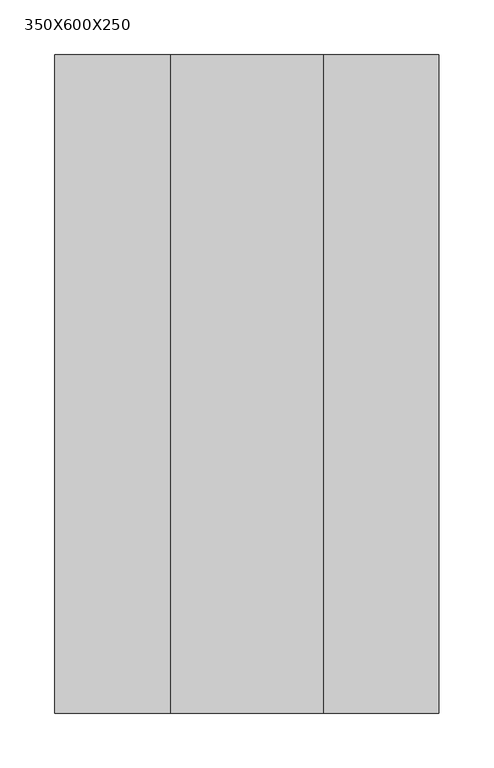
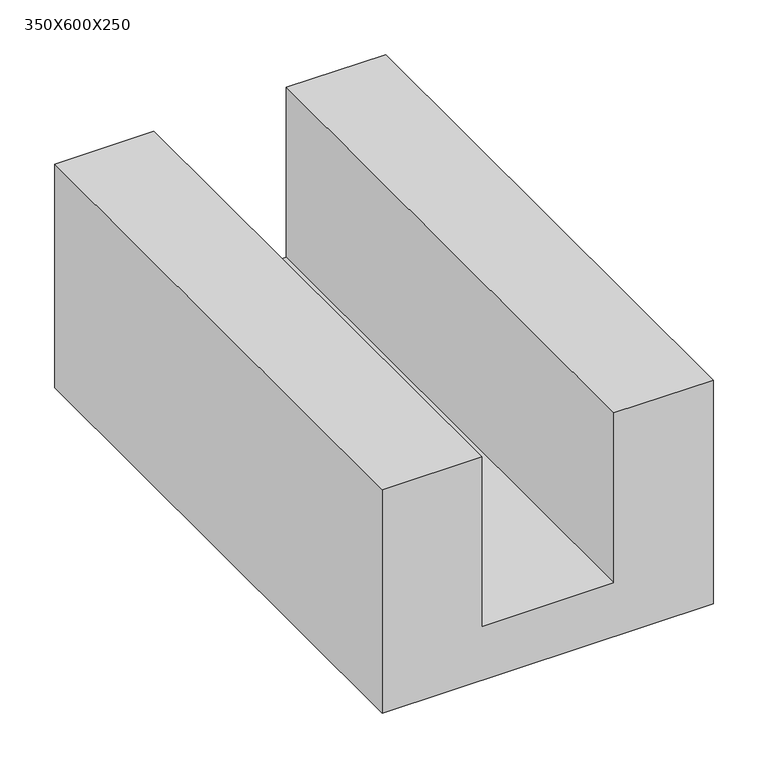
"""IFC4 building model written with IfcOpenShell, lengths in millimetres: plate geometry, GASBETON Evolution Canalette : 350X600X250."""

import ifcopenshell
import ifcopenshell.guid

model = None  # the IFC model being written
_history = None  # IfcOwnerHistory: only IFC2X3 demands one
_inside = {}  # id of a spatial element -> (the spatial element, [elements in it])
_under = {}  # id of a project, library or spatial element -> (it, [spatial elements below it])
_declared = {}  # id of a project -> (the project, [libraries it declares])
_typed = {}  # id of a type object -> (the type object, [elements of that type])
_made_of = {}  # id of a material, layer set ... -> (it, [elements and type objects made of it])


def new_model(schema):
    """Start an empty IFC model of exactly this schema.

    Asked for "IFC4X3", IfcOpenShell would pick the latest addendum, in which some entities
    have other attributes; the version numbers below select the first issue.
    IFC2X3 requires an IfcOwnerHistory on every rooted entity: one is made here for all.
    """
    global model, _history
    if schema == "IFC4X3":
        model = ifcopenshell.file(schema_version=(4, 3, 0, 0))
    else:
        model = ifcopenshell.file(schema=schema)
    _inside.clear()
    _under.clear()
    _declared.clear()
    _typed.clear()
    _made_of.clear()
    _history = None
    if model.schema == "IFC2X3":
        org = make("IfcOrganization", Name="unknown")
        user = make(
            "IfcPersonAndOrganization",
            ThePerson=make("IfcPerson", FamilyName="unknown"),
            TheOrganization=org,
        )
        app = make(
            "IfcApplication",
            ApplicationDeveloper=org,
            Version="unknown",
            ApplicationFullName="unknown",
            ApplicationIdentifier="unknown",
        )
        _history = make(
            "IfcOwnerHistory",
            OwningUser=user,
            OwningApplication=app,
            ChangeAction="ADDED",
            CreationDate=0,
        )
    return model


def make(cls, **values):
    """One entity of the class cls with the attributes given. An attribute that is None is left unset."""
    return model.create_entity(
        cls, **{name: value for name, value in values.items() if value is not None}
    )


def rooted(cls, **values):
    """An entity with a GlobalId (a new one), such as an element, a storey or a relation."""
    return make(cls, GlobalId=ifcopenshell.guid.new(), OwnerHistory=_history, **values)


def si_unit(unit_type, name, prefix=None):
    """IfcSIUnit, for example si_unit("LENGTHUNIT", "METRE", prefix="MILLI")."""
    return make("IfcSIUnit", UnitType=unit_type, Prefix=prefix, Name=name)


def assignment(units):
    """IfcUnitAssignment: the units of a project."""
    return None if units is None else make("IfcUnitAssignment", Units=units)


def point(xyz):
    """IfcCartesianPoint."""
    return None if xyz is None else make("IfcCartesianPoint", Coordinates=xyz)


def direction(xyz):
    """IfcDirection."""
    return None if xyz is None else make("IfcDirection", DirectionRatios=xyz)


def frame(location, z_axis=None, x_axis=None):
    """IfcAxis2Placement3D, a coordinate frame: its origin and axes. An axis left out is left unset."""
    return make(
        "IfcAxis2Placement3D",
        Location=point(location),
        Axis=direction(z_axis),
        RefDirection=direction(x_axis),
    )


def origin():
    """The frame at (0, 0, 0) with its axes left unset."""
    return frame((0.0, 0.0, 0.0))


def place(relative_to, where):
    """IfcLocalPlacement: puts the frame where relative to a parent placement (None: the world)."""
    return make(
        "IfcLocalPlacement", PlacementRelTo=relative_to, RelativePlacement=where
    )


def context(
    kind, dimensions, precision=None, world=None, true_north=None, identifier=None
):
    """IfcGeometricRepresentationContext, for example the 3D "Model" context."""
    return make(
        "IfcGeometricRepresentationContext",
        ContextIdentifier=identifier,
        ContextType=kind,
        CoordinateSpaceDimension=dimensions,
        Precision=precision,
        WorldCoordinateSystem=world,
        TrueNorth=true_north,
    )


def project(units=None, contexts=None):
    """IfcProject with its units and contexts."""
    return rooted(
        "IfcProject",
        Name="project",
        RepresentationContexts=contexts,
        UnitsInContext=assignment(units),
    )


def spatial(cls, under=None, at=None, **own):
    """A site, building, storey or space (cls), placed at a placement, below another one or the project."""
    s = rooted(cls, ObjectPlacement=at, **own)
    if under is not None:
        _under.setdefault(under.id(), (under, []))[1].append(s)
    return s


def polyline(points):
    """IfcPolyline through the points."""
    return make("IfcPolyline", Points=[point(p) for p in points])


def outline(outer, holes=None, kind="AREA"):
    """IfcArbitraryClosedProfileDef: a profile drawn as a closed curve; with holes, ...WithVoids."""
    if holes is None:
        return make("IfcArbitraryClosedProfileDef", ProfileType=kind, OuterCurve=outer)
    return make(
        "IfcArbitraryProfileDefWithVoids",
        ProfileType=kind,
        OuterCurve=outer,
        InnerCurves=holes,
    )


def extrude(swept, where, along, depth):
    """IfcExtrudedAreaSolid: the profile swept, set in the frame where, extruded along a direction by depth."""
    return make(
        "IfcExtrudedAreaSolid",
        SweptArea=swept,
        Position=where,
        ExtrudedDirection=direction(along),
        Depth=depth,
    )


def shape(context_of_items, identifier, shape_type, items):
    """IfcShapeRepresentation: the items that make up one representation, for example the "Body"."""
    return make(
        "IfcShapeRepresentation",
        ContextOfItems=context_of_items,
        RepresentationIdentifier=identifier,
        RepresentationType=shape_type,
        Items=items,
    )


def source(mapping_origin, context_of_items, identifier, shape_type, items):
    """IfcRepresentationMap: a shape defined once, which mapped items show again and again."""
    return make(
        "IfcRepresentationMap",
        MappingOrigin=mapping_origin,
        MappedRepresentation=shape(context_of_items, identifier, shape_type, items),
    )


def transform(
    local_origin,
    x_axis=None,
    y_axis=None,
    z_axis=None,
    scale=None,
    scale2=None,
    scale3=None,
    uniform=True,
):
    """IfcCartesianTransformationOperator3D, or its non-uniform kind. x_axis, y_axis, z_axis: its Axis1, 2, 3."""
    if uniform:
        return make(
            "IfcCartesianTransformationOperator3D",
            Axis1=direction(x_axis),
            Axis2=direction(y_axis),
            LocalOrigin=point(local_origin),
            Scale=scale,
            Axis3=direction(z_axis),
        )
    return make(
        "IfcCartesianTransformationOperator3DnonUniform",
        Axis1=direction(x_axis),
        Axis2=direction(y_axis),
        LocalOrigin=point(local_origin),
        Scale=scale,
        Axis3=direction(z_axis),
        Scale2=scale2,
        Scale3=scale3,
    )


def mapped(mapping_source, mapping_target):
    """IfcMappedItem: shows the shape of a source again, moved by a transform."""
    return make(
        "IfcMappedItem", MappingSource=mapping_source, MappingTarget=mapping_target
    )


def made_of(thing, what):
    """Note that an element or type object is made of a material, layer set ...; save() writes the relation."""
    if what is not None:
        _made_of.setdefault(what.id(), (what, []))[1].append(thing)
    return thing


def element(
    cls,
    number,
    at=None,
    inside=None,
    cuts=None,
    type_object=None,
    material=None,
    context=None,
    identifier="Body",
    shape_type=None,
    held_by="IfcProductDefinitionShape",
    body=None,
    shapes=None,
    **own,
):
    """One element of the class cls, such as IfcWall. Its Tag is "e" and its number.

    at: its placement. inside: the storey or other place that contains it. cuts: it is an
    opening in that element (IfcRelVoidsElement). A single representation is given by context,
    identifier, shape_type and body (its items); several are given by shapes. held_by: the class
    of the entity that holds the representations. save() writes the other relations.
    """
    e = rooted(cls, Tag="e%d" % number, ObjectPlacement=at, **own)
    if body is not None:
        shapes = [shape(context, identifier, shape_type, body)]
    if shapes is not None:
        e.Representation = make(held_by, Representations=shapes)
    if inside is not None:
        _inside.setdefault(inside.id(), (inside, []))[1].append(e)
    if cuts is not None:
        rooted(
            "IfcRelVoidsElement", RelatingBuildingElement=cuts, RelatedOpeningElement=e
        )
    if type_object is not None:
        _typed.setdefault(type_object.id(), (type_object, []))[1].append(e)
    return made_of(e, material)


def aggregate(whole, parts):
    """IfcRelAggregates: a whole, such as a stair, and the parts it consists of."""
    return rooted("IfcRelAggregates", RelatingObject=whole, RelatedObjects=parts)


def save(model, path):
    """Write the relations noted so far, then the file.

    IfcRelAggregates (storeys below a building ...), IfcRelContainedInSpatialStructure (elements
    in a storey), IfcRelDefinesByType, IfcRelAssociatesMaterial and IfcRelDeclares: one each for
    every whole, place, type object, material and project.
    """
    for whole, parts in _under.values():
        aggregate(whole, parts)
    for where, things in _inside.values():
        rooted(
            "IfcRelContainedInSpatialStructure",
            RelatedElements=things,
            RelatingStructure=where,
        )
    for kind, things in _typed.values():
        rooted("IfcRelDefinesByType", RelatedObjects=things, RelatingType=kind)
    for what, things in _made_of.values():
        rooted("IfcRelAssociatesMaterial", RelatedObjects=things, RelatingMaterial=what)
    for by, libraries in _declared.values():
        rooted("IfcRelDeclares", RelatingContext=by, RelatedDefinitions=libraries)
    model.write(path)


def plate_350x600x250_8a40d1bf(model_context):
    return source(origin(), model_context, "Body", "SweptSolid", [
        extrude(outline(polyline([(0.0, -175.0), (0.0, 175.0), (250.0, 175.0), (250.0, 70.0), (60.0, 70.0), (60.0, -70.0), (250.0, -70.0), (250.0, -175.0), (0.0, -175.0)])), frame((0.0, -300.0, 0.0), z_axis=(0.0, 1.0, 0.0), x_axis=(0.0, 0.0, 1.0)), (0.0, 0.0, 1.0), 600.0),
    ])


if __name__ == "__main__":
    model = new_model("IFC4")
    model_context = context("Model", 3, world=origin())
    ifc_project = project(units=[si_unit("LENGTHUNIT", "METRE", prefix="MILLI")], contexts=[model_context])
    site = spatial("IfcSite", under=ifc_project)
    building = spatial("IfcBuilding", under=site)
    placement = place(None, origin())
    plate_350x600x250_shape = plate_350x600x250_8a40d1bf(model_context)
    element("IfcPlate", 1, ObjectType="GASBETON Evolution Canalette : 350X600X250", at=placement, inside=building, context=model_context, shape_type="MappedRepresentation", body=[
        mapped(plate_350x600x250_shape, transform((0.0, 0.0, 0.0), x_axis=(1.0, 0.0, 0.0), y_axis=(0.0, 1.0, 0.0), z_axis=(0.0, 0.0, 1.0))),
    ])
    save(model, "model.ifc")
